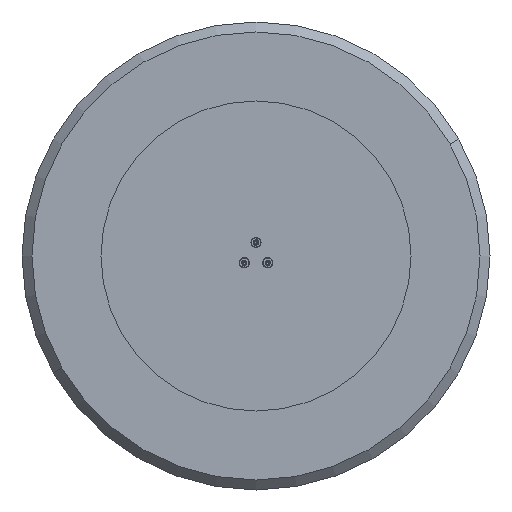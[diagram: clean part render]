
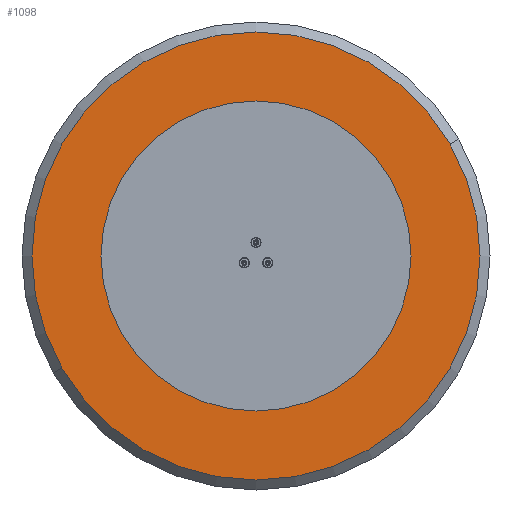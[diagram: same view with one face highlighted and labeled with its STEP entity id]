
A CAD part, front view. The second image highlights one B-rep face of the part: STEP entity #1098.
In plain terms, the highlighted planar face has unit normal (0, -1, 0).
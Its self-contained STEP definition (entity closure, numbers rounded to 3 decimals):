
#17 = EDGE_CURVE ( 'NONE', #2299, #1021, #4211, .T. ) ;
#24 = AXIS2_PLACEMENT_3D ( 'NONE', #3306, #2239, #1010 ) ;
#53 = ORIENTED_EDGE ( 'NONE', *, *, #1428, .F. ) ;
#96 = EDGE_CURVE ( 'NONE', #3438, #5567, #2225, .T. ) ;
#161 = AXIS2_PLACEMENT_3D ( 'NONE', #2704, #4450, #341 ) ;
#203 = VERTEX_POINT ( 'NONE', #5704 ) ;
#258 = DIRECTION ( 'NONE',  ( 0., 0., -1. ) ) ;
#271 = CIRCLE ( 'NONE', #3726, 3.4 ) ;
#289 = DIRECTION ( 'NONE',  ( 0., -1., 0. ) ) ;
#319 = CARTESIAN_POINT ( 'NONE',  ( 0., 0., 0. ) ) ;
#320 = CIRCLE ( 'NONE', #24, 3.4 ) ;
#341 = DIRECTION ( 'NONE',  ( 0., 0., -1. ) ) ;
#396 = CARTESIAN_POINT ( 'NONE',  ( 95., 0., -54.848 ) ) ;
#470 = CIRCLE ( 'NONE', #4583, 3.4 ) ;
#585 = CARTESIAN_POINT ( 'NONE',  ( 0., 0., 383. ) ) ;
#613 = FACE_BOUND ( 'NONE', #1477, .T. ) ;
#687 = CARTESIAN_POINT ( 'NONE',  ( 0., 0., -383. ) ) ;
#746 = CIRCLE ( 'NONE', #161, 3.4 ) ;
#780 = EDGE_CURVE ( 'NONE', #1021, #2299, #5669, .T. ) ;
#899 = EDGE_LOOP ( 'NONE', ( #5383, #2733 ) ) ;
#939 = ORIENTED_EDGE ( 'NONE', *, *, #4107, .F. ) ;
#1010 = DIRECTION ( 'NONE',  ( 0., 0., -1. ) ) ;
#1021 = VERTEX_POINT ( 'NONE', #585 ) ;
#1027 = DIRECTION ( 'NONE',  ( 0., -1., 0. ) ) ;
#1098 = ADVANCED_FACE ( 'NONE', ( #3319, #4783, #613, #3823, #4652 ), #3441, .T. ) ;
#1177 = VERTEX_POINT ( 'NONE', #5302 ) ;
#1196 = DIRECTION ( 'NONE',  ( 0., 0., -1. ) ) ;
#1343 = EDGE_LOOP ( 'NONE', ( #3060, #2944 ) ) ;
#1378 = CARTESIAN_POINT ( 'NONE',  ( 95., 0., -54.848 ) ) ;
#1428 = EDGE_CURVE ( 'NONE', #2955, #203, #320, .T. ) ;
#1477 = EDGE_LOOP ( 'NONE', ( #4684, #2630 ) ) ;
#1548 = AXIS2_PLACEMENT_3D ( 'NONE', #2437, #4252, #258 ) ;
#1646 = AXIS2_PLACEMENT_3D ( 'NONE', #5094, #2325, #2372 ) ;
#1691 = ORIENTED_EDGE ( 'NONE', *, *, #3891, .F. ) ;
#1820 = CARTESIAN_POINT ( 'NONE',  ( -95., 0., -58.248 ) ) ;
#1914 = CIRCLE ( 'NONE', #2994, 3.4 ) ;
#1987 = EDGE_CURVE ( 'NONE', #1177, #3777, #470, .T. ) ;
#2062 = DIRECTION ( 'NONE',  ( 0., 0., -1. ) ) ;
#2135 = AXIS2_PLACEMENT_3D ( 'NONE', #319, #289, #1196 ) ;
#2169 = EDGE_LOOP ( 'NONE', ( #1691, #3689 ) ) ;
#2225 = CIRCLE ( 'NONE', #1548, 3.4 ) ;
#2233 = DIRECTION ( 'NONE',  ( 0., -1., 0. ) ) ;
#2239 = DIRECTION ( 'NONE',  ( 0., -1., 0. ) ) ;
#2299 = VERTEX_POINT ( 'NONE', #687 ) ;
#2325 = DIRECTION ( 'NONE',  ( 0., -1., 0. ) ) ;
#2372 = DIRECTION ( 'NONE',  ( 0., 0., -1. ) ) ;
#2437 = CARTESIAN_POINT ( 'NONE',  ( 0., 0., 0. ) ) ;
#2518 = VERTEX_POINT ( 'NONE', #2802 ) ;
#2630 = ORIENTED_EDGE ( 'NONE', *, *, #5493, .F. ) ;
#2704 = CARTESIAN_POINT ( 'NONE',  ( 0., 0., 0. ) ) ;
#2733 = ORIENTED_EDGE ( 'NONE', *, *, #5025, .F. ) ;
#2750 = CARTESIAN_POINT ( 'NONE',  ( 0., 0., 109.697 ) ) ;
#2802 = CARTESIAN_POINT ( 'NONE',  ( 0., 0., 113.097 ) ) ;
#2893 = CIRCLE ( 'NONE', #4896, 3.4 ) ;
#2925 = DIRECTION ( 'NONE',  ( 0., 0., -1. ) ) ;
#2944 = ORIENTED_EDGE ( 'NONE', *, *, #17, .T. ) ;
#2955 = VERTEX_POINT ( 'NONE', #1820 ) ;
#2994 = AXIS2_PLACEMENT_3D ( 'NONE', #2996, #4765, #3026 ) ;
#2996 = CARTESIAN_POINT ( 'NONE',  ( 0., 0., 109.697 ) ) ;
#3026 = DIRECTION ( 'NONE',  ( 0., 0., -1. ) ) ;
#3055 = DIRECTION ( 'NONE',  ( 0., 0., -1. ) ) ;
#3060 = ORIENTED_EDGE ( 'NONE', *, *, #780, .T. ) ;
#3287 = AXIS2_PLACEMENT_3D ( 'NONE', #5137, #1027, #2062 ) ;
#3288 = VERTEX_POINT ( 'NONE', #4263 ) ;
#3306 = CARTESIAN_POINT ( 'NONE',  ( -95., 0., -54.848 ) ) ;
#3319 = FACE_BOUND ( 'NONE', #3729, .T. ) ;
#3438 = VERTEX_POINT ( 'NONE', #5896 ) ;
#3441 = PLANE ( 'NONE',  #3287 ) ;
#3689 = ORIENTED_EDGE ( 'NONE', *, *, #5889, .F. ) ;
#3726 = AXIS2_PLACEMENT_3D ( 'NONE', #396, #2233, #3055 ) ;
#3729 = EDGE_LOOP ( 'NONE', ( #53, #939 ) ) ;
#3733 = AXIS2_PLACEMENT_3D ( 'NONE', #4215, #5627, #2925 ) ;
#3777 = VERTEX_POINT ( 'NONE', #5730 ) ;
#3823 = FACE_OUTER_BOUND ( 'NONE', #1343, .T. ) ;
#3891 = EDGE_CURVE ( 'NONE', #3288, #2518, #2893, .T. ) ;
#4012 = DIRECTION ( 'NONE',  ( 0., -1., 0. ) ) ;
#4107 = EDGE_CURVE ( 'NONE', #203, #2955, #5370, .T. ) ;
#4211 = CIRCLE ( 'NONE', #1646, 383. ) ;
#4215 = CARTESIAN_POINT ( 'NONE',  ( -95., 0., -54.848 ) ) ;
#4252 = DIRECTION ( 'NONE',  ( 0., -1., 0. ) ) ;
#4263 = CARTESIAN_POINT ( 'NONE',  ( 0., 0., 106.297 ) ) ;
#4450 = DIRECTION ( 'NONE',  ( 0., -1., 0. ) ) ;
#4460 = DIRECTION ( 'NONE',  ( 0., 0., -1. ) ) ;
#4528 = CARTESIAN_POINT ( 'NONE',  ( 0., 0., 3.4 ) ) ;
#4583 = AXIS2_PLACEMENT_3D ( 'NONE', #1378, #4012, #5037 ) ;
#4652 = FACE_BOUND ( 'NONE', #899, .T. ) ;
#4684 = ORIENTED_EDGE ( 'NONE', *, *, #1987, .F. ) ;
#4765 = DIRECTION ( 'NONE',  ( 0., -1., 0. ) ) ;
#4783 = FACE_BOUND ( 'NONE', #2169, .T. ) ;
#4896 = AXIS2_PLACEMENT_3D ( 'NONE', #2750, #5941, #4460 ) ;
#5025 = EDGE_CURVE ( 'NONE', #5567, #3438, #746, .T. ) ;
#5037 = DIRECTION ( 'NONE',  ( 0., 0., -1. ) ) ;
#5094 = CARTESIAN_POINT ( 'NONE',  ( 0., 0., 0. ) ) ;
#5137 = CARTESIAN_POINT ( 'NONE',  ( 0., 0., 0. ) ) ;
#5302 = CARTESIAN_POINT ( 'NONE',  ( 95., 0., -58.248 ) ) ;
#5370 = CIRCLE ( 'NONE', #3733, 3.4 ) ;
#5383 = ORIENTED_EDGE ( 'NONE', *, *, #96, .F. ) ;
#5493 = EDGE_CURVE ( 'NONE', #3777, #1177, #271, .T. ) ;
#5567 = VERTEX_POINT ( 'NONE', #4528 ) ;
#5627 = DIRECTION ( 'NONE',  ( 0., -1., 0. ) ) ;
#5669 = CIRCLE ( 'NONE', #2135, 383. ) ;
#5704 = CARTESIAN_POINT ( 'NONE',  ( -95., 0., -51.448 ) ) ;
#5730 = CARTESIAN_POINT ( 'NONE',  ( 95., 0., -51.448 ) ) ;
#5889 = EDGE_CURVE ( 'NONE', #2518, #3288, #1914, .T. ) ;
#5896 = CARTESIAN_POINT ( 'NONE',  ( 0., 0., -3.4 ) ) ;
#5941 = DIRECTION ( 'NONE',  ( 0., -1., 0. ) ) ;
